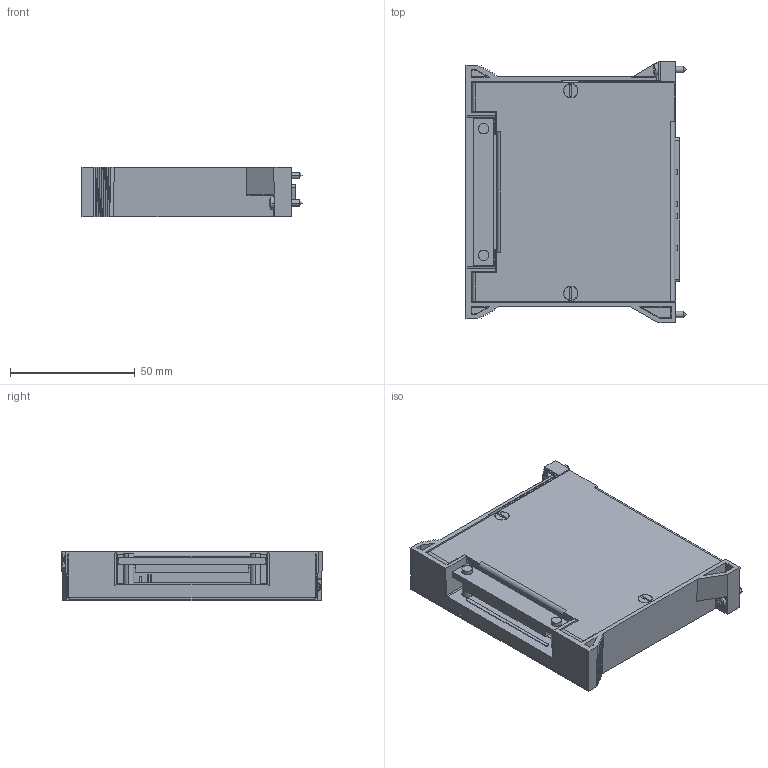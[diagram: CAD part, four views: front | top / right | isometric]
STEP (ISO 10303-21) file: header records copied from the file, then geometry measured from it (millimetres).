
FILE_DESCRIPTION((''),'2;1');
FILE_NAME('CD_TB-2630B','2011-02-03T',('jjorden'),(''),'PRO/ENGINEER BY PARAMETRIC TECHNOLOGY CORPORATION, 2010230','PRO/ENGINEER BY PARAMETRIC TECHNOLOGY CORPORATION, 2010230','');
FILE_SCHEMA(('CONFIG_CONTROL_DESIGN'));
Length unit declared in the file: inch
Products named in the file (1): CD_TB-2630B
Bounding box: 88.31 x 104.78 x 20.02 mm (x, y, z)
Volume: 43783.6 mm3; surface area: 53473.9 mm2
Topology: 1 solids, 1 shells, 1442 faces, 3817 edges, 2398 vertices
Faces by surface type: plane 1031, cylinder 256, bspline 60, cone 58, sphere 25, torus 12
Entity records: 46076 total; most frequent: CARTESIAN_POINT 10538, ORIENTED_EDGE 7506, DIRECTION 6944, EDGE_CURVE 3753, VECTOR 2890, LINE 2890, VERTEX_POINT 2455, AXIS2_PLACEMENT_3D 2027
